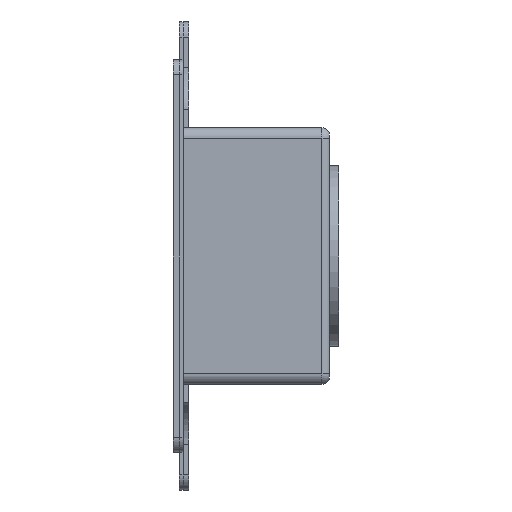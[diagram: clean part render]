
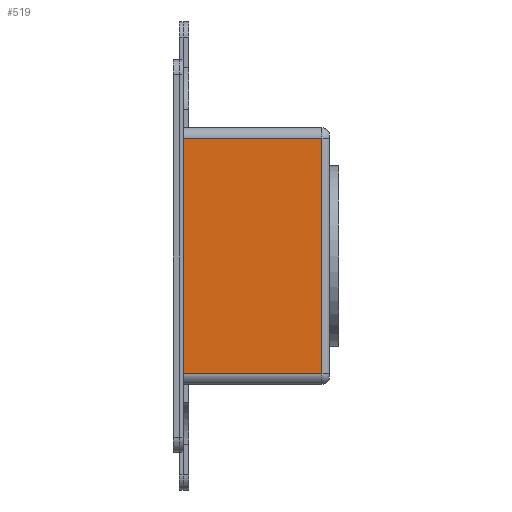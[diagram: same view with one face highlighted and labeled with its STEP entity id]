
A CAD part, left-side view. The second image highlights one B-rep face of the part: STEP entity #519.
In plain terms, the highlighted planar face has unit normal (-1, 0, 0).
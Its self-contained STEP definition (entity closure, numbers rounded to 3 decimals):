
#60 = VECTOR ( 'NONE', #1953, 1000. ) ;
#76 = AXIS2_PLACEMENT_3D ( 'NONE', #790, #800, #1939 ) ;
#206 = EDGE_LOOP ( 'NONE', ( #751, #1700, #622, #845 ) ) ;
#252 = CARTESIAN_POINT ( 'NONE',  ( 4., -4.6, 2.1 ) ) ;
#519 = ADVANCED_FACE ( 'NONE', ( #1497 ), #2167, .F. ) ;
#537 = LINE ( 'NONE', #2559, #1328 ) ;
#586 = CARTESIAN_POINT ( 'NONE',  ( 4., -4.6, 9.9 ) ) ;
#622 = ORIENTED_EDGE ( 'NONE', *, *, #2614, .T. ) ;
#751 = ORIENTED_EDGE ( 'NONE', *, *, #2483, .T. ) ;
#790 = CARTESIAN_POINT ( 'NONE',  ( 4., -4.85, 10.25 ) ) ;
#800 = DIRECTION ( 'NONE',  ( 1., 0., 0. ) ) ;
#845 = ORIENTED_EDGE ( 'NONE', *, *, #2068, .T. ) ;
#1125 = CARTESIAN_POINT ( 'NONE',  ( 4., 0., 2.1 ) ) ;
#1186 = CARTESIAN_POINT ( 'NONE',  ( 4., -4.85, 9.9 ) ) ;
#1200 = DIRECTION ( 'NONE',  ( 0., 0., 1. ) ) ;
#1328 = VECTOR ( 'NONE', #1200, 1000. ) ;
#1497 = FACE_OUTER_BOUND ( 'NONE', #206, .T. ) ;
#1532 = VERTEX_POINT ( 'NONE', #1125 ) ;
#1593 = DIRECTION ( 'NONE',  ( 0., -1., 0. ) ) ;
#1700 = ORIENTED_EDGE ( 'NONE', *, *, #1809, .T. ) ;
#1758 = VECTOR ( 'NONE', #2334, 1000. ) ;
#1769 = VERTEX_POINT ( 'NONE', #252 ) ;
#1809 = EDGE_CURVE ( 'NONE', #1769, #1980, #537, .T. ) ;
#1932 = LINE ( 'NONE', #1186, #1758 ) ;
#1939 = DIRECTION ( 'NONE',  ( 0., 0., -1. ) ) ;
#1953 = DIRECTION ( 'NONE',  ( 0., 0., -1. ) ) ;
#1980 = VERTEX_POINT ( 'NONE', #586 ) ;
#2010 = CARTESIAN_POINT ( 'NONE',  ( 4., 0., 9.9 ) ) ;
#2068 = EDGE_CURVE ( 'NONE', #2294, #1532, #2665, .T. ) ;
#2167 = PLANE ( 'NONE',  #76 ) ;
#2294 = VERTEX_POINT ( 'NONE', #2010 ) ;
#2334 = DIRECTION ( 'NONE',  ( 0., 1., 0. ) ) ;
#2397 = CARTESIAN_POINT ( 'NONE',  ( 4., 0., 10.25 ) ) ;
#2483 = EDGE_CURVE ( 'NONE', #1532, #1769, #2818, .T. ) ;
#2559 = CARTESIAN_POINT ( 'NONE',  ( 4., -4.6, 9.9 ) ) ;
#2614 = EDGE_CURVE ( 'NONE', #1980, #2294, #1932, .T. ) ;
#2665 = LINE ( 'NONE', #2397, #60 ) ;
#2728 = CARTESIAN_POINT ( 'NONE',  ( 4., -4.85, 2.1 ) ) ;
#2818 = LINE ( 'NONE', #2728, #2967 ) ;
#2967 = VECTOR ( 'NONE', #1593, 1000. ) ;
